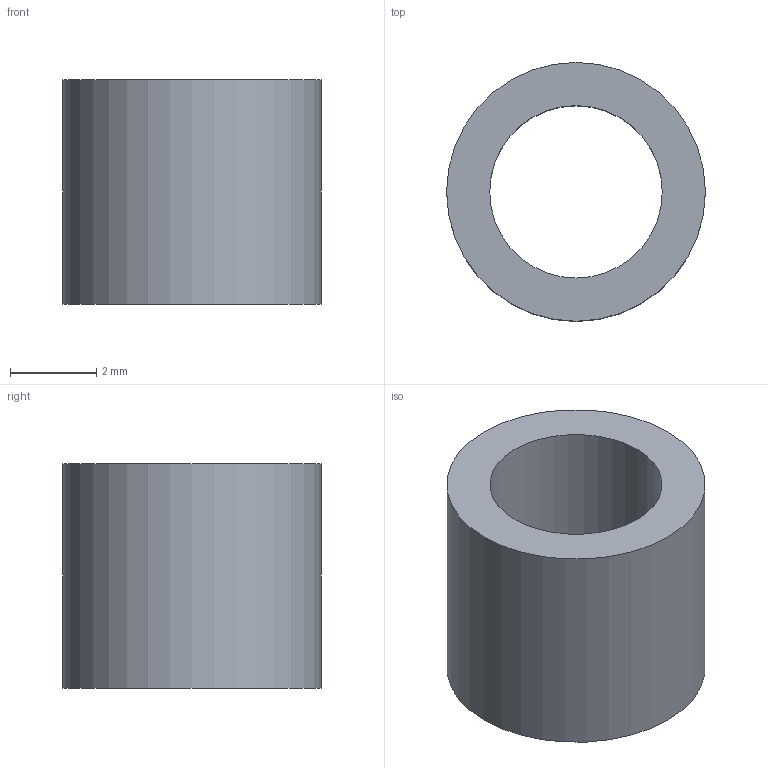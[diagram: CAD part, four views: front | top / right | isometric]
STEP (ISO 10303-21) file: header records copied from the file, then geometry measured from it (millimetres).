
FILE_DESCRIPTION(/* description */ (''),/* implementation_level */ '2;1');
FILE_NAME(/* name */ 'D:\STEP files\spacer.stp',/* time_stamp */ '2020-08-13T23:47:32+02:00',/* author */ ('Vít Budina'),/* organization */ (''),/* preprocessor_version */ 'ST-DEVELOPER v18',/* originating_system */ 'Autodesk Inventor 2020',/* authorisation */ '');
FILE_SCHEMA (('AUTOMOTIVE_DESIGN { 1 0 10303 214 3 1 1 }'));
Length unit declared in the file: millimetre
Products named in the file (1): spacer
Bounding box: 6 x 6 x 5.2 mm (x, y, z)
Volume: 81.7 mm3; surface area: 194.8 mm2
Topology: 1 solids, 1 shells, 4 faces, 8 edges, 6 vertices
Faces by surface type: cylinder 2, plane 2
Full cylindrical faces by diameter (mm): 4 x1, 6 x1
Entity records: 159 total; most frequent: DIRECTION 24, CARTESIAN_POINT 19, ORIENTED_EDGE 16, AXIS2_PLACEMENT_3D 11, EDGE_CURVE 8, EDGE_LOOP 6, CIRCLE 6, VERTEX_POINT 6
